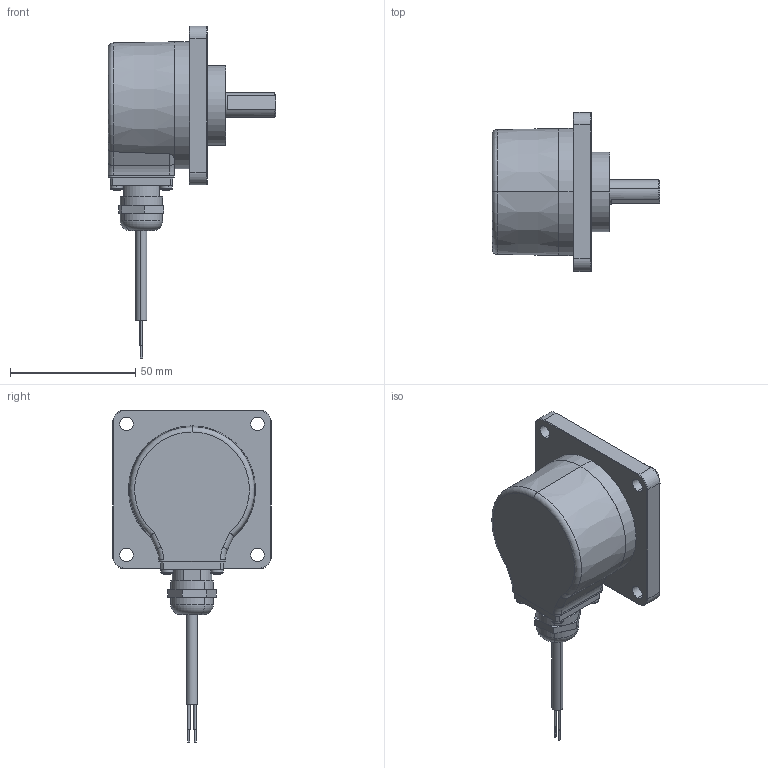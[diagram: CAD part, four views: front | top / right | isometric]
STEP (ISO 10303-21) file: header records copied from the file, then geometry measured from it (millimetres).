
FILE_DESCRIPTION (( 'STEP AP214' ), '1' );
FILE_NAME ('5000.D3X2.STEP', '2007-07-05T07:21:01', ( 'DanneckerS' ), ( ' ' ), 'SwSTEP 2.0', 'SolidWorks 2007', '' );
FILE_SCHEMA (( 'AUTOMOTIVE_DESIGN' ));
Length unit declared in the file: millimetre
Products named in the file (1): 5000.D3X2
Bounding box: 67 x 63.5 x 132.75 mm (x, y, z)
Surface area: 21443.7 mm2 (no closed solid volume)
Topology: 0 solids, 12 shells, 233 faces, 587 edges, 373 vertices
Faces by surface type: plane 118, cylinder 60, torus 24, cone 19, sphere 8, bspline 4
Entity records: 9713 total; most frequent: CARTESIAN_POINT 1394, DIRECTION 1297, ORIENTED_EDGE 1098, EDGE_CURVE 587, AXIS2_PLACEMENT_3D 508, VERTEX_POINT 373, VECTOR 281, LINE 281
